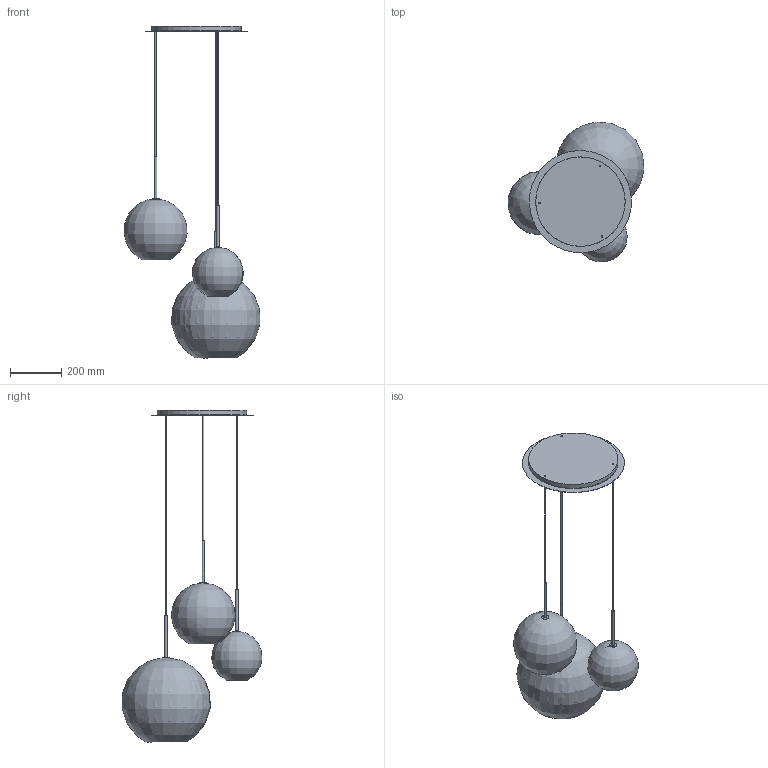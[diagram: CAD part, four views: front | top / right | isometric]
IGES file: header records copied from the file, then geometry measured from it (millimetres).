
Start section: SolidWorks IGES file using analytic representation for surfaces
Global section: file name: X:\PRODUKT\Modele 3D_WWW\_KOLEKCJE WWW\SPHERE\SPHERE-III-7788\SPHERE-III-7788.IGS; native system: SolidWorks 2021; preprocessor: SolidWorks 2021; author: gabriela.tworek; date: 220808.135626; units: millimetre
Bounding box: 531.63 x 547.7 x 1299.85 mm (x, y, z)
Surface area: 1918868 mm2 (no closed solid volume)
Topology: 0 solids, 3 shells, 460 faces, 1807 edges, 1576 vertices
Faces by surface type: revolution 243, bspline 217
